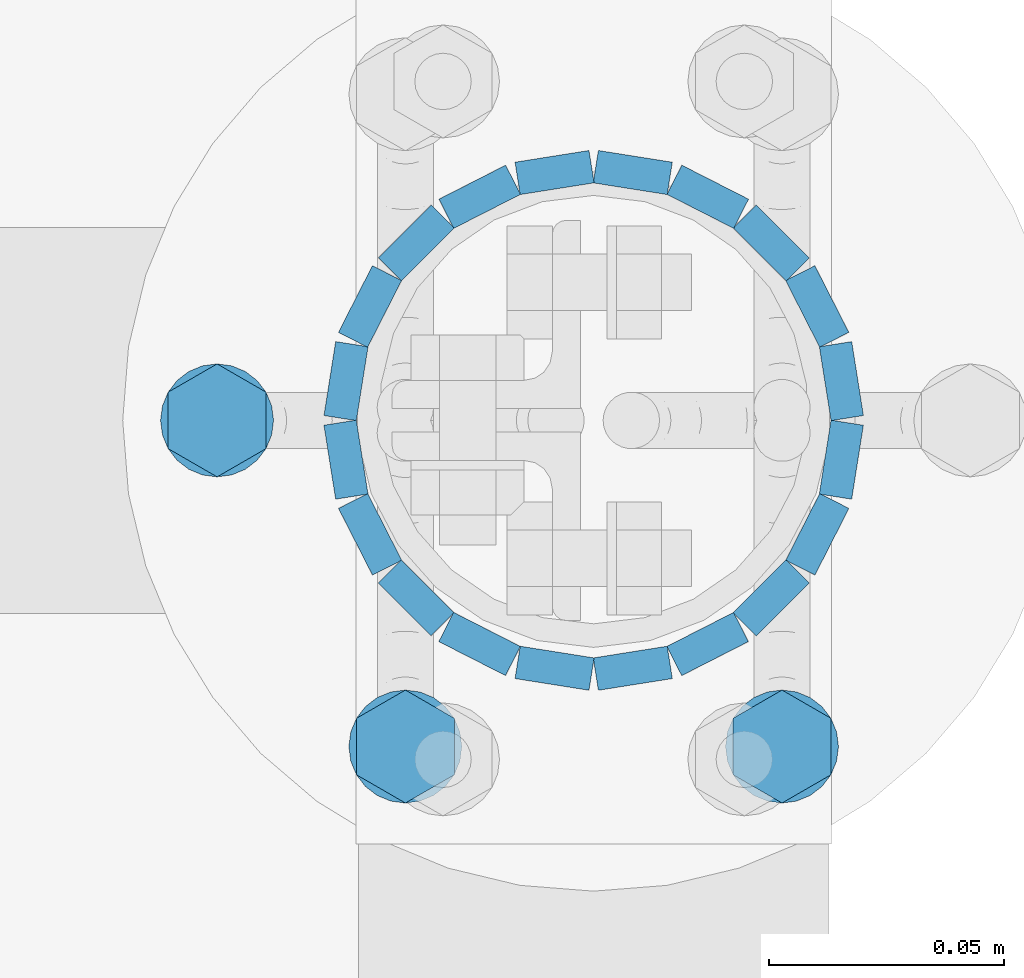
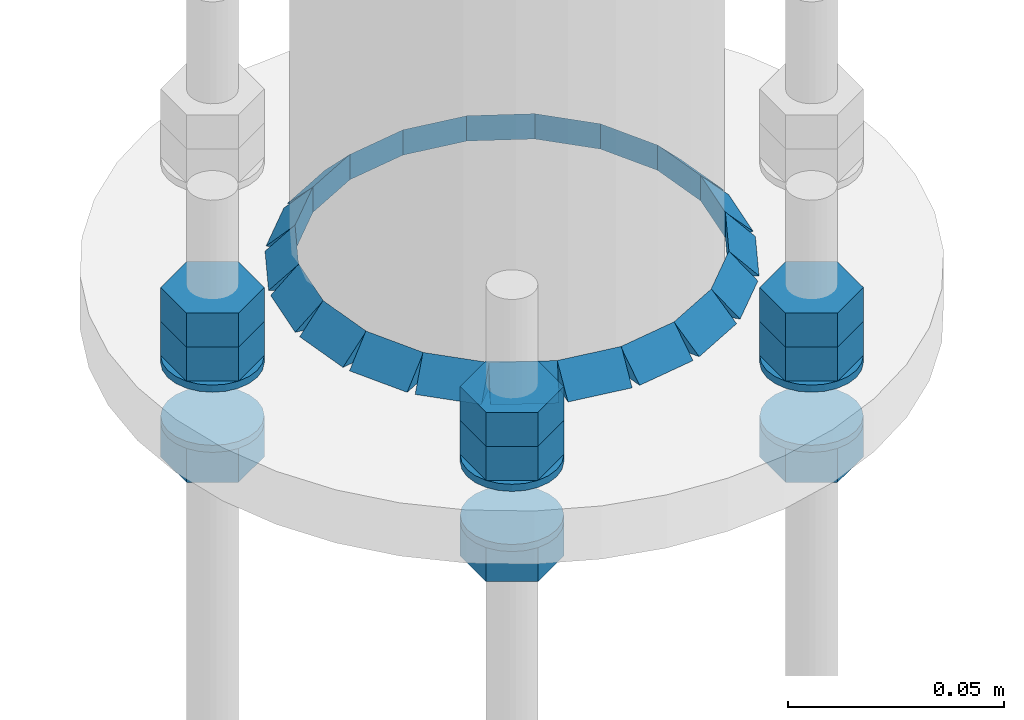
# One storey, part 28 of 84: 40 fasteners, 15 mechanical fasteners.
"""IFC4 building model written with IfcOpenShell, lengths in metres."""

from ifc_helpers import new_model, si_unit, frame, origin_with_axes, place, context, project, spatial, polyline, outline, extrude, type_object, element, save


model = new_model("IFC4")

# Units and contexts
model_context = context("Model", 3, precision=1e-05, world=origin_with_axes())
ifc_project = project(units=[si_unit("LENGTHUNIT", "METRE"), si_unit("AREAUNIT", "SQUARE_METRE"), si_unit("VOLUMEUNIT", "CUBIC_METRE"), si_unit("MASSUNIT", "GRAM", prefix="KILO"), si_unit("TIMEUNIT", "SECOND"), si_unit("PLANEANGLEUNIT", "RADIAN"), si_unit("SOLIDANGLEUNIT", "STERADIAN"), si_unit("THERMODYNAMICTEMPERATUREUNIT", "DEGREE_CELSIUS")], contexts=[model_context])

# Site, building, storey
placement_1 = place(None, origin_with_axes())
site = spatial("IfcSite", under=ifc_project, at=placement_1, Name="Italia", CompositionType="ELEMENT")
building = spatial("IfcBuilding", under=site, at=placement_1, Name="Tettoia", CompositionType="ELEMENT")
storey_placement = place(None, frame((0.0, 0.0, 4.199999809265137), z_axis=(0.0, 0.0, 1.0), x_axis=(1.0, 0.0, 0.0)))
storey = spatial("IfcBuildingStorey", under=building, at=storey_placement, Name="Storey 1", CompositionType="ELEMENT", Elevation=4.199999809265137)

# Fasteners
fastener_type_1 = type_object("IfcFastenerType", Name="Collegamento -004_0104", PredefinedType="WELD")
placement_2 = place(placement_1, origin_with_axes())
fastener_1_placement = place(placement_2, origin_with_axes())
element("IfcFastener", 1, at=fastener_1_placement, inside=storey, type_object=fastener_type_1, Name="Collegamento -004_0104", context=model_context, shape_type="SweptSolid", body=[
    extrude(outline(polyline([(0.0, 0.0), (0.00695801, 0.00717354), (0.00695801, 0.0), (0.0, 0.0)])), frame((11.3067, 4.70484, 4.01495), z_axis=(-0.987694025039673, 0.156398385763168, 0.0), x_axis=(-0.156398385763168, -0.987694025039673, 0.0)), (0.0, 0.0, 1.0), 0.0158998),
])
fastener_type_2 = type_object("IfcFastenerType", Name="Collegamento -004_0104", PredefinedType="WELD")
fastener_2_placement = place(placement_2, origin_with_axes())
element("IfcFastener", 2, at=fastener_2_placement, inside=storey, type_object=fastener_type_2, Name="Collegamento -004_0104", context=model_context, shape_type="SweptSolid", body=[
    extrude(outline(polyline([(0.0, 0.0), (0.00695801, 0.00717354), (0.00695801, 0.0), (0.0, 0.0)])), frame((11.3229, 4.69699, 4.01495), z_axis=(-0.891006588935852, 0.453990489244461, 0.0), x_axis=(-0.453990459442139, -0.891006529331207, 0.0)), (0.0, 0.0, 1.0), 0.0158998),
])
fastener_type_3 = type_object("IfcFastenerType", Name="Collegamento -004_0104", PredefinedType="WELD")
fastener_3_placement = place(placement_2, origin_with_axes())
element("IfcFastener", 3, at=fastener_3_placement, inside=storey, type_object=fastener_type_3, Name="Collegamento -004_0104", context=model_context, shape_type="SweptSolid", body=[
    extrude(outline(polyline([(0.0, 0.0), (0.00695801, 0.00717354), (0.00695801, 0.0), (0.0, 0.0)])), frame((11.3358, 4.68453, 4.01495), z_axis=(-0.70710676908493, 0.70710676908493, 0.0), x_axis=(-0.70710676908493, -0.70710676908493, 0.0)), (0.0, 0.0, 1.0), 0.0158998),
])
fastener_type_4 = type_object("IfcFastenerType", Name="Collegamento -004_0104", PredefinedType="WELD")
fastener_4_placement = place(placement_2, origin_with_axes())
element("IfcFastener", 4, at=fastener_4_placement, inside=storey, type_object=fastener_type_4, Name="Collegamento -004_0104", context=model_context, shape_type="SweptSolid", body=[
    extrude(outline(polyline([(0.0, 0.0), (0.00695896, 0.00717354), (0.00695896, 0.0), (0.0, 0.0)])), frame((11.3442, 4.6687, 4.01495), z_axis=(-0.453990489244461, 0.891006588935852, 0.0), x_axis=(-0.891006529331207, -0.453990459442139, 0.0)), (0.0, 0.0, 1.0), 0.0158998),
])
fastener_type_5 = type_object("IfcFastenerType", Name="Collegamento -004_0104", PredefinedType="WELD")
fastener_5_placement = place(placement_2, origin_with_axes())
element("IfcFastener", 5, at=fastener_5_placement, inside=storey, type_object=fastener_type_5, Name="Collegamento -004_0104", context=model_context, shape_type="SweptSolid", body=[
    extrude(outline(polyline([(0.0, 0.0), (0.00695896, 0.00717354), (0.00695896, 0.0), (0.0, 0.0)])), frame((11.3473, 4.65103, 4.01495), z_axis=(-0.1564861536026, 0.987680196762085, 0.0), x_axis=(-0.98768013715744, -0.156486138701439, 0.0)), (0.0, 0.0, 1.0), 0.0159),
])
fastener_type_6 = type_object("IfcFastenerType", Name="Collegamento -004_0104", PredefinedType="WELD")
fastener_6_placement = place(placement_2, origin_with_axes())
element("IfcFastener", 6, at=fastener_6_placement, inside=storey, type_object=fastener_type_6, Name="Collegamento -004_0104", context=model_context, shape_type="SweptSolid", body=[
    extrude(outline(polyline([(0.0, 0.0), (0.00695801, 0.00717354), (0.00695801, 0.0), (0.0, 0.0)])), frame((11.3448, 4.63326, 4.01495), z_axis=(0.1564861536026, 0.987680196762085, 0.0), x_axis=(-0.98768013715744, 0.156486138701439, 0.0)), (0.0, 0.0, 1.0), 0.0159),
])
fastener_type_7 = type_object("IfcFastenerType", Name="Collegamento -004_0104", PredefinedType="WELD")
fastener_7_placement = place(placement_2, origin_with_axes())
element("IfcFastener", 7, at=fastener_7_placement, inside=storey, type_object=fastener_type_7, Name="Collegamento -004_0104", context=model_context, shape_type="SweptSolid", body=[
    extrude(outline(polyline([(0.0, 0.0), (0.00695848, 0.00717354), (0.00695848, 0.0), (0.0, 0.0)])), frame((11.337, 4.61714, 4.01495), z_axis=(0.453990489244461, 0.891006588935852, 0.0), x_axis=(-0.891006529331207, 0.453990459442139, 0.0)), (0.0, 0.0, 1.0), 0.0158998),
])
fastener_type_8 = type_object("IfcFastenerType", Name="Collegamento -004_0104", PredefinedType="WELD")
fastener_8_placement = place(placement_2, origin_with_axes())
element("IfcFastener", 8, at=fastener_8_placement, inside=storey, type_object=fastener_type_8, Name="Collegamento -004_0104", context=model_context, shape_type="SweptSolid", body=[
    extrude(outline(polyline([(0.0, 0.0), (0.00695801, 0.00717354), (0.00695801, 0.0), (0.0, 0.0)])), frame((11.3245, 4.60422, 4.01495), z_axis=(0.70710676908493, 0.70710676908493, 0.0), x_axis=(-0.70710676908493, 0.70710676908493, 0.0)), (0.0, 0.0, 1.0), 0.0158998),
])
fastener_type_9 = type_object("IfcFastenerType", Name="Collegamento -004_0104", PredefinedType="WELD")
fastener_9_placement = place(placement_2, origin_with_axes())
element("IfcFastener", 9, at=fastener_9_placement, inside=storey, type_object=fastener_type_9, Name="Collegamento -004_0104", context=model_context, shape_type="SweptSolid", body=[
    extrude(outline(polyline([(0.0, 0.0), (0.00695848, 0.00717354), (0.00695848, 0.0), (0.0, 0.0)])), frame((11.3087, 4.59579, 4.01495), z_axis=(0.891006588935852, 0.453990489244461, 0.0), x_axis=(-0.453990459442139, 0.891006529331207, 0.0)), (0.0, 0.0, 1.0), 0.0158998),
])
fastener_type_10 = type_object("IfcFastenerType", Name="Collegamento -004_0104", PredefinedType="WELD")
fastener_10_placement = place(placement_2, origin_with_axes())
element("IfcFastener", 10, at=fastener_10_placement, inside=storey, type_object=fastener_type_10, Name="Collegamento -004_0104", context=model_context, shape_type="SweptSolid", body=[
    extrude(outline(polyline([(0.0, 0.0), (0.00695801, 0.00717354), (0.00695801, 0.0), (0.0, 0.0)])), frame((11.291, 4.59267, 4.01495), z_axis=(0.987694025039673, 0.156398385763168, 0.0), x_axis=(-0.156398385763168, 0.987694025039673, 0.0)), (0.0, 0.0, 1.0), 0.0158998),
])
fastener_type_11 = type_object("IfcFastenerType", Name="Collegamento -004_0104", PredefinedType="WELD")
fastener_11_placement = place(placement_2, origin_with_axes())
element("IfcFastener", 11, at=fastener_11_placement, inside=storey, type_object=fastener_type_11, Name="Collegamento -004_0104", context=model_context, shape_type="SweptSolid", body=[
    extrude(outline(polyline([(0.0, 0.0), (0.00695848, 0.00717354), (0.00695848, 0.0), (0.0, 0.0)])), frame((11.2733, 4.59516, 4.01495), z_axis=(0.987694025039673, -0.156398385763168, 0.0), x_axis=(0.156398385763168, 0.987694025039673, 0.0)), (0.0, 0.0, 1.0), 0.0158998),
])
fastener_type_12 = type_object("IfcFastenerType", Name="Collegamento -004_0104", PredefinedType="WELD")
fastener_12_placement = place(placement_2, origin_with_axes())
element("IfcFastener", 12, at=fastener_12_placement, inside=storey, type_object=fastener_type_12, Name="Collegamento -004_0104", context=model_context, shape_type="SweptSolid", body=[
    extrude(outline(polyline([(0.0, 0.0), (0.00695801, 0.00717354), (0.00695801, 0.0), (0.0, 0.0)])), frame((11.2571, 4.60301, 4.01495), z_axis=(0.891006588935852, -0.453990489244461, 0.0), x_axis=(0.453990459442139, 0.891006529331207, 0.0)), (0.0, 0.0, 1.0), 0.0158998),
])
fastener_type_13 = type_object("IfcFastenerType", Name="Collegamento -004_0104", PredefinedType="WELD")
fastener_13_placement = place(placement_2, origin_with_axes())
element("IfcFastener", 13, at=fastener_13_placement, inside=storey, type_object=fastener_type_13, Name="Collegamento -004_0104", context=model_context, shape_type="SweptSolid", body=[
    extrude(outline(polyline([(0.0, 0.0), (0.00695801, 0.00717354), (0.00695801, 0.0), (0.0, 0.0)])), frame((11.2442, 4.61547, 4.01495), z_axis=(0.70710676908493, -0.70710676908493, 0.0), x_axis=(0.70710676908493, 0.70710676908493, 0.0)), (0.0, 0.0, 1.0), 0.0158998),
])
fastener_type_14 = type_object("IfcFastenerType", Name="Collegamento -004_0104", PredefinedType="WELD")
fastener_14_placement = place(placement_2, origin_with_axes())
element("IfcFastener", 14, at=fastener_14_placement, inside=storey, type_object=fastener_type_14, Name="Collegamento -004_0104", context=model_context, shape_type="SweptSolid", body=[
    extrude(outline(polyline([(0.0, 0.0), (0.00695705, 0.00717354), (0.00695705, 0.0), (0.0, 0.0)])), frame((11.2358, 4.6313, 4.01495), z_axis=(0.453990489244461, -0.891006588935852, 0.0), x_axis=(0.891006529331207, 0.453990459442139, 0.0)), (0.0, 0.0, 1.0), 0.0158998),
])
fastener_type_15 = type_object("IfcFastenerType", Name="Collegamento -004_0104", PredefinedType="WELD")
fastener_15_placement = place(placement_2, origin_with_axes())
element("IfcFastener", 15, at=fastener_15_placement, inside=storey, type_object=fastener_type_15, Name="Collegamento -004_0104", context=model_context, shape_type="SweptSolid", body=[
    extrude(outline(polyline([(0.0, 0.0), (0.00695896, 0.00717354), (0.00695896, 0.0), (0.0, 0.0)])), frame((11.2327, 4.64897, 4.01495), z_axis=(0.1564861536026, -0.987680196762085, 0.0), x_axis=(0.98768013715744, 0.156486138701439, 0.0)), (0.0, 0.0, 1.0), 0.0159),
])
fastener_type_16 = type_object("IfcFastenerType", Name="Collegamento -004_0104", PredefinedType="WELD")
fastener_16_placement = place(placement_2, origin_with_axes())
element("IfcFastener", 16, at=fastener_16_placement, inside=storey, type_object=fastener_type_16, Name="Collegamento -004_0104", context=model_context, shape_type="SweptSolid", body=[
    extrude(outline(polyline([(0.0, 0.0), (0.00695896, 0.00717354), (0.00695896, 0.0), (0.0, 0.0)])), frame((11.2352, 4.66674, 4.01495), z_axis=(-0.1564861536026, -0.987680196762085, 0.0), x_axis=(0.98768013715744, -0.156486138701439, 0.0)), (0.0, 0.0, 1.0), 0.0159),
])
fastener_type_17 = type_object("IfcFastenerType", Name="Collegamento -004_0104", PredefinedType="WELD")
fastener_17_placement = place(placement_2, origin_with_axes())
element("IfcFastener", 17, at=fastener_17_placement, inside=storey, type_object=fastener_type_17, Name="Collegamento -004_0104", context=model_context, shape_type="SweptSolid", body=[
    extrude(outline(polyline([(0.0, 0.0), (0.00695801, 0.00717354), (0.00695801, 0.0), (0.0, 0.0)])), frame((11.243, 4.68286, 4.01495), z_axis=(-0.453990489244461, -0.891006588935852, 0.0), x_axis=(0.891006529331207, -0.453990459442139, 0.0)), (0.0, 0.0, 1.0), 0.0158998),
])
fastener_type_18 = type_object("IfcFastenerType", Name="Collegamento -004_0104", PredefinedType="WELD")
fastener_18_placement = place(placement_2, origin_with_axes())
element("IfcFastener", 18, at=fastener_18_placement, inside=storey, type_object=fastener_type_18, Name="Collegamento -004_0104", context=model_context, shape_type="SweptSolid", body=[
    extrude(outline(polyline([(0.0, 0.0), (0.00695801, 0.00717354), (0.00695801, 0.0), (0.0, 0.0)])), frame((11.2555, 4.69578, 4.01495), z_axis=(-0.70710676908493, -0.70710676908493, 0.0), x_axis=(0.70710676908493, -0.70710676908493, 0.0)), (0.0, 0.0, 1.0), 0.0158998),
])
fastener_type_19 = type_object("IfcFastenerType", Name="Collegamento -004_0104", PredefinedType="WELD")
fastener_19_placement = place(placement_2, origin_with_axes())
element("IfcFastener", 19, at=fastener_19_placement, inside=storey, type_object=fastener_type_19, Name="Collegamento -004_0104", context=model_context, shape_type="SweptSolid", body=[
    extrude(outline(polyline([(0.0, 0.0), (0.00695801, 0.00717354), (0.00695801, 0.0), (0.0, 0.0)])), frame((11.2713, 4.70421, 4.01495), z_axis=(-0.891006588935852, -0.453990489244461, 0.0), x_axis=(0.453990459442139, -0.891006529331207, 0.0)), (0.0, 0.0, 1.0), 0.0158998),
])
fastener_type_20 = type_object("IfcFastenerType", Name="Collegamento -004_0104", PredefinedType="WELD")
fastener_20_placement = place(placement_2, origin_with_axes())
element("IfcFastener", 20, at=fastener_20_placement, inside=storey, type_object=fastener_type_20, Name="Collegamento -004_0104", context=model_context, shape_type="SweptSolid", body=[
    extrude(outline(polyline([(0.0, 0.0), (0.00695729, 0.00717354), (0.00695729, 0.0), (0.0, 0.0)])), frame((11.289, 4.70733, 4.01495), z_axis=(-0.987694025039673, -0.156398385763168, 0.0), x_axis=(0.156398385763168, -0.987694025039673, 0.0)), (0.0, 0.0, 1.0), 0.0158998),
])
fastener_type_21 = type_object("IfcFastenerType", Name="Collegamento -004_0104", PredefinedType="WELD")
fastener_21_placement = place(placement_2, origin_with_axes())
element("IfcFastener", 21, at=fastener_21_placement, inside=storey, type_object=fastener_type_21, Name="Collegamento -004_0104", context=model_context, shape_type="SweptSolid", body=[
    extrude(outline(polyline([(0.0, 0.0), (0.00695801, 0.00717354), (0.00695801, 0.0), (0.0, 0.0)])), frame((11.3067, 4.70484, 4.01495), z_axis=(-0.987694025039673, 0.156398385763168, 0.0), x_axis=(-0.156398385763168, -0.987694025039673, 0.0)), (0.0, 0.0, 1.0), 0.0158998),
])
fastener_type_22 = type_object("IfcFastenerType", Name="Collegamento -004_0104", PredefinedType="WELD")
fastener_22_placement = place(placement_2, origin_with_axes())
element("IfcFastener", 22, at=fastener_22_placement, inside=storey, type_object=fastener_type_22, Name="Collegamento -004_0104", context=model_context, shape_type="SweptSolid", body=[
    extrude(outline(polyline([(0.0, 0.0), (0.00695801, 0.00717354), (0.00695801, 0.0), (0.0, 0.0)])), frame((11.3229, 4.69699, 4.01495), z_axis=(-0.891006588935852, 0.453990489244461, 0.0), x_axis=(-0.453990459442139, -0.891006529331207, 0.0)), (0.0, 0.0, 1.0), 0.0158998),
])
fastener_type_23 = type_object("IfcFastenerType", Name="Collegamento -004_0104", PredefinedType="WELD")
fastener_23_placement = place(placement_2, origin_with_axes())
element("IfcFastener", 23, at=fastener_23_placement, inside=storey, type_object=fastener_type_23, Name="Collegamento -004_0104", context=model_context, shape_type="SweptSolid", body=[
    extrude(outline(polyline([(0.0, 0.0), (0.00695801, 0.00717354), (0.00695801, 0.0), (0.0, 0.0)])), frame((11.3358, 4.68453, 4.01495), z_axis=(-0.70710676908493, 0.70710676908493, 0.0), x_axis=(-0.70710676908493, -0.70710676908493, 0.0)), (0.0, 0.0, 1.0), 0.0158998),
])
fastener_type_24 = type_object("IfcFastenerType", Name="Collegamento -004_0104", PredefinedType="WELD")
fastener_24_placement = place(placement_2, origin_with_axes())
element("IfcFastener", 24, at=fastener_24_placement, inside=storey, type_object=fastener_type_24, Name="Collegamento -004_0104", context=model_context, shape_type="SweptSolid", body=[
    extrude(outline(polyline([(0.0, 0.0), (0.00695896, 0.00717354), (0.00695896, 0.0), (0.0, 0.0)])), frame((11.3442, 4.6687, 4.01495), z_axis=(-0.453990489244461, 0.891006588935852, 0.0), x_axis=(-0.891006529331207, -0.453990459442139, 0.0)), (0.0, 0.0, 1.0), 0.0158998),
])
fastener_type_25 = type_object("IfcFastenerType", Name="Collegamento -004_0104", PredefinedType="WELD")
fastener_25_placement = place(placement_2, origin_with_axes())
element("IfcFastener", 25, at=fastener_25_placement, inside=storey, type_object=fastener_type_25, Name="Collegamento -004_0104", context=model_context, shape_type="SweptSolid", body=[
    extrude(outline(polyline([(0.0, 0.0), (0.00695896, 0.00717354), (0.00695896, 0.0), (0.0, 0.0)])), frame((11.3473, 4.65103, 4.01495), z_axis=(-0.1564861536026, 0.987680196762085, 0.0), x_axis=(-0.98768013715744, -0.156486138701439, 0.0)), (0.0, 0.0, 1.0), 0.0159),
])
fastener_type_26 = type_object("IfcFastenerType", Name="Collegamento -004_0104", PredefinedType="WELD")
fastener_26_placement = place(placement_2, origin_with_axes())
element("IfcFastener", 26, at=fastener_26_placement, inside=storey, type_object=fastener_type_26, Name="Collegamento -004_0104", context=model_context, shape_type="SweptSolid", body=[
    extrude(outline(polyline([(0.0, 0.0), (0.00695801, 0.00717354), (0.00695801, 0.0), (0.0, 0.0)])), frame((11.3448, 4.63326, 4.01495), z_axis=(0.1564861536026, 0.987680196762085, 0.0), x_axis=(-0.98768013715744, 0.156486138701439, 0.0)), (0.0, 0.0, 1.0), 0.0159),
])
fastener_type_27 = type_object("IfcFastenerType", Name="Collegamento -004_0104", PredefinedType="WELD")
fastener_27_placement = place(placement_2, origin_with_axes())
element("IfcFastener", 27, at=fastener_27_placement, inside=storey, type_object=fastener_type_27, Name="Collegamento -004_0104", context=model_context, shape_type="SweptSolid", body=[
    extrude(outline(polyline([(0.0, 0.0), (0.00695848, 0.00717354), (0.00695848, 0.0), (0.0, 0.0)])), frame((11.337, 4.61714, 4.01495), z_axis=(0.453990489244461, 0.891006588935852, 0.0), x_axis=(-0.891006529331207, 0.453990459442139, 0.0)), (0.0, 0.0, 1.0), 0.0158998),
])
fastener_type_28 = type_object("IfcFastenerType", Name="Collegamento -004_0104", PredefinedType="WELD")
fastener_28_placement = place(placement_2, origin_with_axes())
element("IfcFastener", 28, at=fastener_28_placement, inside=storey, type_object=fastener_type_28, Name="Collegamento -004_0104", context=model_context, shape_type="SweptSolid", body=[
    extrude(outline(polyline([(0.0, 0.0), (0.00695801, 0.00717354), (0.00695801, 0.0), (0.0, 0.0)])), frame((11.3245, 4.60422, 4.01495), z_axis=(0.70710676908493, 0.70710676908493, 0.0), x_axis=(-0.70710676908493, 0.70710676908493, 0.0)), (0.0, 0.0, 1.0), 0.0158998),
])
fastener_type_29 = type_object("IfcFastenerType", Name="Collegamento -004_0104", PredefinedType="WELD")
fastener_29_placement = place(placement_2, origin_with_axes())
element("IfcFastener", 29, at=fastener_29_placement, inside=storey, type_object=fastener_type_29, Name="Collegamento -004_0104", context=model_context, shape_type="SweptSolid", body=[
    extrude(outline(polyline([(0.0, 0.0), (0.00695848, 0.00717354), (0.00695848, 0.0), (0.0, 0.0)])), frame((11.3087, 4.59579, 4.01495), z_axis=(0.891006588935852, 0.453990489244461, 0.0), x_axis=(-0.453990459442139, 0.891006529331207, 0.0)), (0.0, 0.0, 1.0), 0.0158998),
])
fastener_type_30 = type_object("IfcFastenerType", Name="Collegamento -004_0104", PredefinedType="WELD")
fastener_30_placement = place(placement_2, origin_with_axes())
element("IfcFastener", 30, at=fastener_30_placement, inside=storey, type_object=fastener_type_30, Name="Collegamento -004_0104", context=model_context, shape_type="SweptSolid", body=[
    extrude(outline(polyline([(0.0, 0.0), (0.00695801, 0.00717354), (0.00695801, 0.0), (0.0, 0.0)])), frame((11.291, 4.59267, 4.01495), z_axis=(0.987694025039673, 0.156398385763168, 0.0), x_axis=(-0.156398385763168, 0.987694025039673, 0.0)), (0.0, 0.0, 1.0), 0.0158998),
])
fastener_type_31 = type_object("IfcFastenerType", Name="Collegamento -004_0104", PredefinedType="WELD")
fastener_31_placement = place(placement_2, origin_with_axes())
element("IfcFastener", 31, at=fastener_31_placement, inside=storey, type_object=fastener_type_31, Name="Collegamento -004_0104", context=model_context, shape_type="SweptSolid", body=[
    extrude(outline(polyline([(0.0, 0.0), (0.00695848, 0.00717354), (0.00695848, 0.0), (0.0, 0.0)])), frame((11.2733, 4.59516, 4.01495), z_axis=(0.987694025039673, -0.156398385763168, 0.0), x_axis=(0.156398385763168, 0.987694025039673, 0.0)), (0.0, 0.0, 1.0), 0.0158998),
])
fastener_type_32 = type_object("IfcFastenerType", Name="Collegamento -004_0104", PredefinedType="WELD")
fastener_32_placement = place(placement_2, origin_with_axes())
element("IfcFastener", 32, at=fastener_32_placement, inside=storey, type_object=fastener_type_32, Name="Collegamento -004_0104", context=model_context, shape_type="SweptSolid", body=[
    extrude(outline(polyline([(0.0, 0.0), (0.00695801, 0.00717354), (0.00695801, 0.0), (0.0, 0.0)])), frame((11.2571, 4.60301, 4.01495), z_axis=(0.891006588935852, -0.453990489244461, 0.0), x_axis=(0.453990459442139, 0.891006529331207, 0.0)), (0.0, 0.0, 1.0), 0.0158998),
])
fastener_type_33 = type_object("IfcFastenerType", Name="Collegamento -004_0104", PredefinedType="WELD")
fastener_33_placement = place(placement_2, origin_with_axes())
element("IfcFastener", 33, at=fastener_33_placement, inside=storey, type_object=fastener_type_33, Name="Collegamento -004_0104", context=model_context, shape_type="SweptSolid", body=[
    extrude(outline(polyline([(0.0, 0.0), (0.00695801, 0.00717354), (0.00695801, 0.0), (0.0, 0.0)])), frame((11.2442, 4.61547, 4.01495), z_axis=(0.70710676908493, -0.70710676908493, 0.0), x_axis=(0.70710676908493, 0.70710676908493, 0.0)), (0.0, 0.0, 1.0), 0.0158998),
])
fastener_type_34 = type_object("IfcFastenerType", Name="Collegamento -004_0104", PredefinedType="WELD")
fastener_34_placement = place(placement_2, origin_with_axes())
element("IfcFastener", 34, at=fastener_34_placement, inside=storey, type_object=fastener_type_34, Name="Collegamento -004_0104", context=model_context, shape_type="SweptSolid", body=[
    extrude(outline(polyline([(0.0, 0.0), (0.00695705, 0.00717354), (0.00695705, 0.0), (0.0, 0.0)])), frame((11.2358, 4.6313, 4.01495), z_axis=(0.453990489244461, -0.891006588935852, 0.0), x_axis=(0.891006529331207, 0.453990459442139, 0.0)), (0.0, 0.0, 1.0), 0.0158998),
])
fastener_type_35 = type_object("IfcFastenerType", Name="Collegamento -004_0104", PredefinedType="WELD")
fastener_35_placement = place(placement_2, origin_with_axes())
element("IfcFastener", 35, at=fastener_35_placement, inside=storey, type_object=fastener_type_35, Name="Collegamento -004_0104", context=model_context, shape_type="SweptSolid", body=[
    extrude(outline(polyline([(0.0, 0.0), (0.00695896, 0.00717354), (0.00695896, 0.0), (0.0, 0.0)])), frame((11.2327, 4.64897, 4.01495), z_axis=(0.1564861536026, -0.987680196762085, 0.0), x_axis=(0.98768013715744, 0.156486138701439, 0.0)), (0.0, 0.0, 1.0), 0.0159),
])
fastener_type_36 = type_object("IfcFastenerType", Name="Collegamento -004_0104", PredefinedType="WELD")
fastener_36_placement = place(placement_2, origin_with_axes())
element("IfcFastener", 36, at=fastener_36_placement, inside=storey, type_object=fastener_type_36, Name="Collegamento -004_0104", context=model_context, shape_type="SweptSolid", body=[
    extrude(outline(polyline([(0.0, 0.0), (0.00695896, 0.00717354), (0.00695896, 0.0), (0.0, 0.0)])), frame((11.2352, 4.66674, 4.01495), z_axis=(-0.1564861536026, -0.987680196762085, 0.0), x_axis=(0.98768013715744, -0.156486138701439, 0.0)), (0.0, 0.0, 1.0), 0.0159),
])
fastener_type_37 = type_object("IfcFastenerType", Name="Collegamento -004_0104", PredefinedType="WELD")
fastener_37_placement = place(placement_2, origin_with_axes())
element("IfcFastener", 37, at=fastener_37_placement, inside=storey, type_object=fastener_type_37, Name="Collegamento -004_0104", context=model_context, shape_type="SweptSolid", body=[
    extrude(outline(polyline([(0.0, 0.0), (0.00695801, 0.00717354), (0.00695801, 0.0), (0.0, 0.0)])), frame((11.243, 4.68286, 4.01495), z_axis=(-0.453990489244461, -0.891006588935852, 0.0), x_axis=(0.891006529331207, -0.453990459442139, 0.0)), (0.0, 0.0, 1.0), 0.0158998),
])
fastener_type_38 = type_object("IfcFastenerType", Name="Collegamento -004_0104", PredefinedType="WELD")
fastener_38_placement = place(placement_2, origin_with_axes())
element("IfcFastener", 38, at=fastener_38_placement, inside=storey, type_object=fastener_type_38, Name="Collegamento -004_0104", context=model_context, shape_type="SweptSolid", body=[
    extrude(outline(polyline([(0.0, 0.0), (0.00695801, 0.00717354), (0.00695801, 0.0), (0.0, 0.0)])), frame((11.2555, 4.69578, 4.01495), z_axis=(-0.70710676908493, -0.70710676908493, 0.0), x_axis=(0.70710676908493, -0.70710676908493, 0.0)), (0.0, 0.0, 1.0), 0.0158998),
])
fastener_type_39 = type_object("IfcFastenerType", Name="Collegamento -004_0104", PredefinedType="WELD")
fastener_39_placement = place(placement_2, origin_with_axes())
element("IfcFastener", 39, at=fastener_39_placement, inside=storey, type_object=fastener_type_39, Name="Collegamento -004_0104", context=model_context, shape_type="SweptSolid", body=[
    extrude(outline(polyline([(0.0, 0.0), (0.00695801, 0.00717354), (0.00695801, 0.0), (0.0, 0.0)])), frame((11.2713, 4.70421, 4.01495), z_axis=(-0.891006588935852, -0.453990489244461, 0.0), x_axis=(0.453990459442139, -0.891006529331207, 0.0)), (0.0, 0.0, 1.0), 0.0158998),
])
fastener_type_40 = type_object("IfcFastenerType", Name="Collegamento -004_0104", PredefinedType="WELD")
fastener_40_placement = place(placement_2, origin_with_axes())
element("IfcFastener", 40, at=fastener_40_placement, inside=storey, type_object=fastener_type_40, Name="Collegamento -004_0104", context=model_context, shape_type="SweptSolid", body=[
    extrude(outline(polyline([(0.0, 0.0), (0.00695729, 0.00717354), (0.00695729, 0.0), (0.0, 0.0)])), frame((11.289, 4.70733, 4.01495), z_axis=(-0.987694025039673, -0.156398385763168, 0.0), x_axis=(0.156398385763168, -0.987694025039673, 0.0)), (0.0, 0.0, 1.0), 0.0158998),
])

# Mechanical fasteners
mechanical_fastener_type_1 = type_object("IfcMechanicalFastenerType", Name="Collegamento -004_0104", PredefinedType="BOLT")
mechanical_fastener_1_placement = place(placement_2, origin_with_axes())
element("IfcMechanicalFastener", 41, at=mechanical_fastener_1_placement, inside=storey, type_object=mechanical_fastener_type_1, Name="Collegamento -004_0104", NominalDiameter=0.0119999, context=model_context, shape_type="SweptSolid", body=[
    extrude(outline(polyline([(0.0, 0.0), (-0.0120001, 0.0), (-0.0180001, 0.0103922), (-0.0120001, 0.0207844), (0.0, 0.0207844), (0.00600004, 0.0103922), (0.0, 0.0)])), frame((11.2204, 4.656, 4.017), z_axis=(0.0, 0.0, 1.0), x_axis=(0.0, 1.0, 0.0)), (0.0, 0.0, 1.0), 0.00959969),
])
mechanical_fastener_type_2 = type_object("IfcMechanicalFastenerType", Name="Collegamento -004_0104", PredefinedType="BOLT")
mechanical_fastener_2_placement = place(placement_2, origin_with_axes())
element("IfcMechanicalFastener", 42, at=mechanical_fastener_2_placement, inside=storey, type_object=mechanical_fastener_type_2, Name="Collegamento -004_0104", NominalDiameter=0.0119999, context=model_context, shape_type="SweptSolid", body=[
    extrude(outline(polyline([(0.0, 0.0), (-0.0120001, 0.0), (-0.0180001, 0.0103922), (-0.0120001, 0.0207844), (0.0, 0.0207844), (0.00600004, 0.0103922), (0.0, 0.0)])), frame((11.2204, 4.656, 4.0266), z_axis=(0.0, 0.0, 1.0), x_axis=(0.0, 1.0, 0.0)), (0.0, 0.0, 1.0), 0.00960016),
])
mechanical_fastener_type_3 = type_object("IfcMechanicalFastenerType", Name="Collegamento -004_0104", PredefinedType="BOLT")
mechanical_fastener_3_placement = place(placement_2, origin_with_axes())
element("IfcMechanicalFastener", 43, at=mechanical_fastener_3_placement, inside=storey, type_object=mechanical_fastener_type_3, Name="Collegamento -004_0104", NominalDiameter=0.0119999, context=model_context, shape_type="SweptSolid", body=[
    extrude(outline(polyline([(0.0, 0.0), (-0.0120001, 0.0), (-0.0180001, 0.0103922), (-0.0120001, 0.0207844), (0.0, 0.0207844), (0.00600004, 0.0103922), (0.0, 0.0)])), frame((11.2204, 4.656, 3.9884), z_axis=(0.0, 0.0, 1.0), x_axis=(0.0, 1.0, 0.0)), (0.0, 0.0, 1.0), 0.00959992),
])
mechanical_fastener_type_4 = type_object("IfcMechanicalFastenerType", Name="Collegamento -004_0104", PredefinedType="BOLT")
mechanical_fastener_4_placement = place(placement_2, origin_with_axes())
element("IfcMechanicalFastener", 44, at=mechanical_fastener_4_placement, inside=storey, type_object=mechanical_fastener_type_4, Name="Collegamento -004_0104", NominalDiameter=0.024, context=model_context, shape_type="SweptSolid", body=[
    extrude(outline(polyline([(0.0, 0.0), (-0.000409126, -0.00310612), (-0.00160789, -0.00599957), (-0.00351477, -0.00848484), (-0.00600004, -0.0103922), (-0.00889444, -0.011591), (-0.0120001, -0.0120001), (-0.0151057, -0.011591), (-0.0180001, -0.0103922), (-0.0204854, -0.00848484), (-0.0223923, -0.00599957), (-0.023591, -0.00310612), (-0.0240002, 0.0), (-0.023591, 0.00310612), (-0.0223923, 0.00599957), (-0.0204854, 0.00848484), (-0.0180001, 0.0103922), (-0.0151057, 0.011591), (-0.0120001, 0.0120001), (-0.00889444, 0.011591), (-0.00600004, 0.0103922), (-0.00351477, 0.00848484), (-0.00160789, 0.00599957), (-0.000409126, 0.00310612), (0.0, 0.0)])), frame((11.21, 4.662, 4.015), z_axis=(0.0, 0.0, 1.0), x_axis=(0.0, 1.0, 0.0)), (0.0, 0.0, 1.0), 0.00200033),
])
mechanical_fastener_type_5 = type_object("IfcMechanicalFastenerType", Name="Collegamento -004_0104", PredefinedType="BOLT")
mechanical_fastener_5_placement = place(placement_2, origin_with_axes())
element("IfcMechanicalFastener", 45, at=mechanical_fastener_5_placement, inside=storey, type_object=mechanical_fastener_type_5, Name="Collegamento -004_0104", NominalDiameter=0.024, context=model_context, shape_type="SweptSolid", body=[
    extrude(outline(polyline([(0.0, 0.0), (-0.000409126, -0.00310612), (-0.00160789, -0.00599957), (-0.00351477, -0.00848484), (-0.00600004, -0.0103922), (-0.00889444, -0.011591), (-0.0120001, -0.0120001), (-0.0151057, -0.011591), (-0.0180001, -0.0103922), (-0.0204854, -0.00848484), (-0.0223923, -0.00599957), (-0.023591, -0.00310612), (-0.0240002, 0.0), (-0.023591, 0.00310612), (-0.0223923, 0.00599957), (-0.0204854, 0.00848484), (-0.0180001, 0.0103922), (-0.0151057, 0.011591), (-0.0120001, 0.0120001), (-0.00889444, 0.011591), (-0.00600004, 0.0103922), (-0.00351477, 0.00848484), (-0.00160789, 0.00599957), (-0.000409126, 0.00310612), (0.0, 0.0)])), frame((11.21, 4.662, 3.998), z_axis=(0.0, 0.0, 1.0), x_axis=(0.0, 1.0, 0.0)), (0.0, 0.0, 1.0), 0.00200009),
])
mechanical_fastener_type_6 = type_object("IfcMechanicalFastenerType", Name="Collegamento -004_0104", PredefinedType="BOLT")
mechanical_fastener_6_placement = place(placement_2, origin_with_axes())
element("IfcMechanicalFastener", 46, at=mechanical_fastener_6_placement, inside=storey, type_object=mechanical_fastener_type_6, Name="Collegamento -004_0104", NominalDiameter=0.0119999, context=model_context, shape_type="SweptSolid", body=[
    extrude(outline(polyline([(0.0, 0.0), (-0.0120001, 0.0), (-0.0180001, 0.0103922), (-0.0120001, 0.0207844), (0.0, 0.0207844), (0.00600004, 0.0103922), (0.0, 0.0)])), frame((11.2604, 4.58672, 4.017), z_axis=(0.0, 0.0, 1.0), x_axis=(0.0, 1.0, 0.0)), (0.0, 0.0, 1.0), 0.00959969),
])
mechanical_fastener_type_7 = type_object("IfcMechanicalFastenerType", Name="Collegamento -004_0104", PredefinedType="BOLT")
mechanical_fastener_7_placement = place(placement_2, origin_with_axes())
element("IfcMechanicalFastener", 47, at=mechanical_fastener_7_placement, inside=storey, type_object=mechanical_fastener_type_7, Name="Collegamento -004_0104", NominalDiameter=0.0119999, context=model_context, shape_type="SweptSolid", body=[
    extrude(outline(polyline([(0.0, 0.0), (-0.0120001, 0.0), (-0.0180001, 0.0103922), (-0.0120001, 0.0207844), (0.0, 0.0207844), (0.00600004, 0.0103922), (0.0, 0.0)])), frame((11.2604, 4.58672, 4.0266), z_axis=(0.0, 0.0, 1.0), x_axis=(0.0, 1.0, 0.0)), (0.0, 0.0, 1.0), 0.00960016),
])
mechanical_fastener_type_8 = type_object("IfcMechanicalFastenerType", Name="Collegamento -004_0104", PredefinedType="BOLT")
mechanical_fastener_8_placement = place(placement_2, origin_with_axes())
element("IfcMechanicalFastener", 48, at=mechanical_fastener_8_placement, inside=storey, type_object=mechanical_fastener_type_8, Name="Collegamento -004_0104", NominalDiameter=0.0119999, context=model_context, shape_type="SweptSolid", body=[
    extrude(outline(polyline([(0.0, 0.0), (-0.0120001, 0.0), (-0.0180001, 0.0103922), (-0.0120001, 0.0207844), (0.0, 0.0207844), (0.00600004, 0.0103922), (0.0, 0.0)])), frame((11.2604, 4.58672, 3.9884), z_axis=(0.0, 0.0, 1.0), x_axis=(0.0, 1.0, 0.0)), (0.0, 0.0, 1.0), 0.00959992),
])
mechanical_fastener_type_9 = type_object("IfcMechanicalFastenerType", Name="Collegamento -004_0104", PredefinedType="BOLT")
mechanical_fastener_9_placement = place(placement_2, origin_with_axes())
element("IfcMechanicalFastener", 49, at=mechanical_fastener_9_placement, inside=storey, type_object=mechanical_fastener_type_9, Name="Collegamento -004_0104", NominalDiameter=0.024, context=model_context, shape_type="SweptSolid", body=[
    extrude(outline(polyline([(0.0, 0.0), (-0.000409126, -0.00310612), (-0.00160789, -0.00599957), (-0.00351477, -0.00848484), (-0.00600004, -0.0103922), (-0.00889444, -0.011591), (-0.0120001, -0.0120001), (-0.0151057, -0.011591), (-0.0180001, -0.0103922), (-0.0204854, -0.00848484), (-0.0223923, -0.00599957), (-0.023591, -0.00310612), (-0.0240002, 0.0), (-0.023591, 0.00310612), (-0.0223923, 0.00599957), (-0.0204854, 0.00848484), (-0.0180001, 0.0103922), (-0.0151057, 0.011591), (-0.0120001, 0.0120001), (-0.00889444, 0.011591), (-0.00600004, 0.0103922), (-0.00351477, 0.00848484), (-0.00160789, 0.00599957), (-0.000409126, 0.00310612), (0.0, 0.0)])), frame((11.25, 4.59272, 4.015), z_axis=(0.0, 0.0, 1.0), x_axis=(0.0, 1.0, 0.0)), (0.0, 0.0, 1.0), 0.00200033),
])
mechanical_fastener_type_10 = type_object("IfcMechanicalFastenerType", Name="Collegamento -004_0104", PredefinedType="BOLT")
mechanical_fastener_10_placement = place(placement_2, origin_with_axes())
element("IfcMechanicalFastener", 50, at=mechanical_fastener_10_placement, inside=storey, type_object=mechanical_fastener_type_10, Name="Collegamento -004_0104", NominalDiameter=0.024, context=model_context, shape_type="SweptSolid", body=[
    extrude(outline(polyline([(0.0, 0.0), (-0.000409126, -0.00310612), (-0.00160789, -0.00599957), (-0.00351477, -0.00848484), (-0.00600004, -0.0103922), (-0.00889444, -0.011591), (-0.0120001, -0.0120001), (-0.0151057, -0.011591), (-0.0180001, -0.0103922), (-0.0204854, -0.00848484), (-0.0223923, -0.00599957), (-0.023591, -0.00310612), (-0.0240002, 0.0), (-0.023591, 0.00310612), (-0.0223923, 0.00599957), (-0.0204854, 0.00848484), (-0.0180001, 0.0103922), (-0.0151057, 0.011591), (-0.0120001, 0.0120001), (-0.00889444, 0.011591), (-0.00600004, 0.0103922), (-0.00351477, 0.00848484), (-0.00160789, 0.00599957), (-0.000409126, 0.00310612), (0.0, 0.0)])), frame((11.25, 4.59272, 3.998), z_axis=(0.0, 0.0, 1.0), x_axis=(0.0, 1.0, 0.0)), (0.0, 0.0, 1.0), 0.00200009),
])
mechanical_fastener_type_11 = type_object("IfcMechanicalFastenerType", Name="Collegamento -004_0104", PredefinedType="BOLT")
mechanical_fastener_11_placement = place(placement_2, origin_with_axes())
element("IfcMechanicalFastener", 51, at=mechanical_fastener_11_placement, inside=storey, type_object=mechanical_fastener_type_11, Name="Collegamento -004_0104", NominalDiameter=0.0119999, context=model_context, shape_type="SweptSolid", body=[
    extrude(outline(polyline([(0.0, 0.0), (-0.0120001, 0.0), (-0.0180001, 0.0103922), (-0.0120001, 0.0207844), (0.0, 0.0207844), (0.00600004, 0.0103922), (0.0, 0.0)])), frame((11.3404, 4.58672, 4.017), z_axis=(0.0, 0.0, 1.0), x_axis=(0.0, 1.0, 0.0)), (0.0, 0.0, 1.0), 0.00959969),
])
mechanical_fastener_type_12 = type_object("IfcMechanicalFastenerType", Name="Collegamento -004_0104", PredefinedType="BOLT")
mechanical_fastener_12_placement = place(placement_2, origin_with_axes())
element("IfcMechanicalFastener", 52, at=mechanical_fastener_12_placement, inside=storey, type_object=mechanical_fastener_type_12, Name="Collegamento -004_0104", NominalDiameter=0.0119999, context=model_context, shape_type="SweptSolid", body=[
    extrude(outline(polyline([(0.0, 0.0), (-0.0120001, 0.0), (-0.0180001, 0.0103922), (-0.0120001, 0.0207844), (0.0, 0.0207844), (0.00600004, 0.0103922), (0.0, 0.0)])), frame((11.3404, 4.58672, 4.0266), z_axis=(0.0, 0.0, 1.0), x_axis=(0.0, 1.0, 0.0)), (0.0, 0.0, 1.0), 0.00960016),
])
mechanical_fastener_type_13 = type_object("IfcMechanicalFastenerType", Name="Collegamento -004_0104", PredefinedType="BOLT")
mechanical_fastener_13_placement = place(placement_2, origin_with_axes())
element("IfcMechanicalFastener", 53, at=mechanical_fastener_13_placement, inside=storey, type_object=mechanical_fastener_type_13, Name="Collegamento -004_0104", NominalDiameter=0.0119999, context=model_context, shape_type="SweptSolid", body=[
    extrude(outline(polyline([(0.0, 0.0), (-0.0120001, 0.0), (-0.0180001, 0.0103922), (-0.0120001, 0.0207844), (0.0, 0.0207844), (0.00600004, 0.0103922), (0.0, 0.0)])), frame((11.3404, 4.58672, 3.9884), z_axis=(0.0, 0.0, 1.0), x_axis=(0.0, 1.0, 0.0)), (0.0, 0.0, 1.0), 0.00959992),
])
mechanical_fastener_type_14 = type_object("IfcMechanicalFastenerType", Name="Collegamento -004_0104", PredefinedType="BOLT")
mechanical_fastener_14_placement = place(placement_2, origin_with_axes())
element("IfcMechanicalFastener", 54, at=mechanical_fastener_14_placement, inside=storey, type_object=mechanical_fastener_type_14, Name="Collegamento -004_0104", NominalDiameter=0.024, context=model_context, shape_type="SweptSolid", body=[
    extrude(outline(polyline([(0.0, 0.0), (-0.000409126, -0.00310612), (-0.00160789, -0.00599957), (-0.00351477, -0.00848484), (-0.00600004, -0.0103922), (-0.00889444, -0.011591), (-0.0120001, -0.0120001), (-0.0151057, -0.011591), (-0.0180001, -0.0103922), (-0.0204854, -0.00848484), (-0.0223923, -0.00599957), (-0.023591, -0.00310612), (-0.0240002, 0.0), (-0.023591, 0.00310612), (-0.0223923, 0.00599957), (-0.0204854, 0.00848484), (-0.0180001, 0.0103922), (-0.0151057, 0.011591), (-0.0120001, 0.0120001), (-0.00889444, 0.011591), (-0.00600004, 0.0103922), (-0.00351477, 0.00848484), (-0.00160789, 0.00599957), (-0.000409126, 0.00310612), (0.0, 0.0)])), frame((11.33, 4.59272, 4.015), z_axis=(0.0, 0.0, 1.0), x_axis=(0.0, 1.0, 0.0)), (0.0, 0.0, 1.0), 0.00200033),
])
mechanical_fastener_type_15 = type_object("IfcMechanicalFastenerType", Name="Collegamento -004_0104", PredefinedType="BOLT")
mechanical_fastener_15_placement = place(placement_2, origin_with_axes())
element("IfcMechanicalFastener", 55, at=mechanical_fastener_15_placement, inside=storey, type_object=mechanical_fastener_type_15, Name="Collegamento -004_0104", NominalDiameter=0.024, context=model_context, shape_type="SweptSolid", body=[
    extrude(outline(polyline([(0.0, 0.0), (-0.000409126, -0.00310612), (-0.00160789, -0.00599957), (-0.00351477, -0.00848484), (-0.00600004, -0.0103922), (-0.00889444, -0.011591), (-0.0120001, -0.0120001), (-0.0151057, -0.011591), (-0.0180001, -0.0103922), (-0.0204854, -0.00848484), (-0.0223923, -0.00599957), (-0.023591, -0.00310612), (-0.0240002, 0.0), (-0.023591, 0.00310612), (-0.0223923, 0.00599957), (-0.0204854, 0.00848484), (-0.0180001, 0.0103922), (-0.0151057, 0.011591), (-0.0120001, 0.0120001), (-0.00889444, 0.011591), (-0.00600004, 0.0103922), (-0.00351477, 0.00848484), (-0.00160789, 0.00599957), (-0.000409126, 0.00310612), (0.0, 0.0)])), frame((11.33, 4.59272, 3.998), z_axis=(0.0, 0.0, 1.0), x_axis=(0.0, 1.0, 0.0)), (0.0, 0.0, 1.0), 0.00200009),
])

save(model, "model.ifc")
